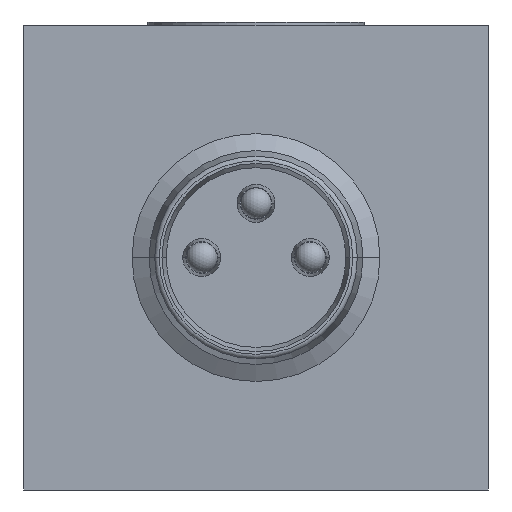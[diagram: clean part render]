
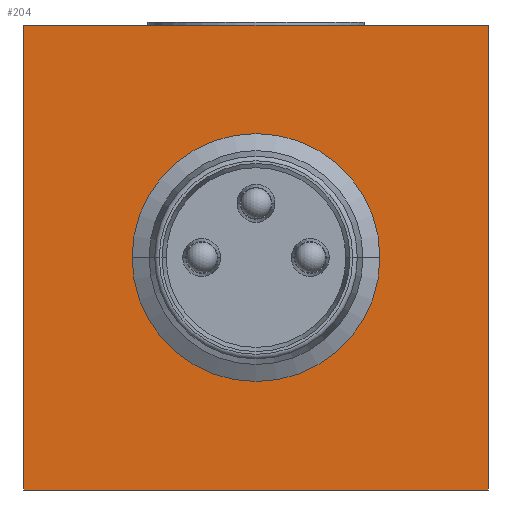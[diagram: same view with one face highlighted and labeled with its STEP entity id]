
A CAD part, front view. The second image highlights one B-rep face of the part: STEP entity #204.
In plain terms, the highlighted planar face has unit normal (0, -1, 0).
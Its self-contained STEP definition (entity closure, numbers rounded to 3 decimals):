
#204=ADVANCED_FACE('',(#425,#426),#427,.T.);
#425=FACE_OUTER_BOUND('',#693,.T.);
#426=FACE_BOUND('',#694,.T.);
#427=PLANE('',#695);
#693=EDGE_LOOP('',(#1184,#1185,#1186,#1187));
#694=EDGE_LOOP('',(#1188,#1189));
#695=AXIS2_PLACEMENT_3D('',#1190,#1191,#1192);
#1184=ORIENTED_EDGE('',*,*,#1481,.T.);
#1185=ORIENTED_EDGE('',*,*,#1464,.T.);
#1186=ORIENTED_EDGE('',*,*,#1502,.T.);
#1187=ORIENTED_EDGE('',*,*,#1446,.T.);
#1188=ORIENTED_EDGE('',*,*,#1488,.F.);
#1189=ORIENTED_EDGE('',*,*,#1525,.F.);
#1190=CARTESIAN_POINT('',(0.,-30.0,0.0));
#1191=DIRECTION('',(0.,-1.0,0.));
#1192=DIRECTION('',(0.,0.,-1.0));
#1446=EDGE_CURVE('',#1710,#1715,#1717,.T.);
#1464=EDGE_CURVE('',#1741,#1743,#1745,.T.);
#1481=EDGE_CURVE('',#1715,#1741,#1770,.T.);
#1488=EDGE_CURVE('',#1777,#1775,#1779,.T.);
#1502=EDGE_CURVE('',#1743,#1710,#1797,.T.);
#1525=EDGE_CURVE('',#1775,#1777,#1820,.T.);
#1710=VERTEX_POINT('',#2061);
#1715=VERTEX_POINT('',#2068);
#1717=LINE('',#2071,#2072);
#1741=VERTEX_POINT('',#2101);
#1743=VERTEX_POINT('',#2104);
#1745=LINE('',#2107,#2108);
#1770=LINE('',#2139,#2140);
#1775=VERTEX_POINT('',#2145);
#1777=VERTEX_POINT('',#2147);
#1779=CIRCLE('',#2149,3.411);
#1797=LINE('',#2169,#2170);
#1820=CIRCLE('',#2198,3.411);
#2061=CARTESIAN_POINT('',(-7.5,-30.0,7.5));
#2068=CARTESIAN_POINT('',(-7.5,-30.0,-7.5));
#2071=CARTESIAN_POINT('',(-7.5,-30.0,0.0));
#2072=VECTOR('',#2387,1.0);
#2101=CARTESIAN_POINT('',(7.5,-30.0,-7.5));
#2104=CARTESIAN_POINT('',(7.5,-30.0,7.5));
#2107=CARTESIAN_POINT('',(7.5,-30.0,0.0));
#2108=VECTOR('',#2413,1.0);
#2139=CARTESIAN_POINT('',(0.,-30.0,-7.5));
#2140=VECTOR('',#2435,1.0);
#2145=CARTESIAN_POINT('',(3.411,-30.0,0.));
#2147=CARTESIAN_POINT('',(-3.411,-30.0,0.0));
#2149=AXIS2_PLACEMENT_3D('',#2448,#2449,#2450);
#2169=CARTESIAN_POINT('',(0.,-30.0,7.5));
#2170=VECTOR('',#2471,1.0);
#2198=AXIS2_PLACEMENT_3D('',#2498,#2499,#2500);
#2387=DIRECTION('',(0.,0.,-1.0));
#2413=DIRECTION('',(0.,0.,1.0));
#2435=DIRECTION('',(1.0,0.,0.));
#2448=CARTESIAN_POINT('',(0.,-30.0,0.0));
#2449=DIRECTION('',(0.,-1.0,0.));
#2450=DIRECTION('',(1.0,0.,0.));
#2471=DIRECTION('',(-1.0,0.,0.));
#2498=CARTESIAN_POINT('',(0.,-30.0,0.0));
#2499=DIRECTION('',(0.,-1.0,0.));
#2500=DIRECTION('',(1.0,0.,0.));
